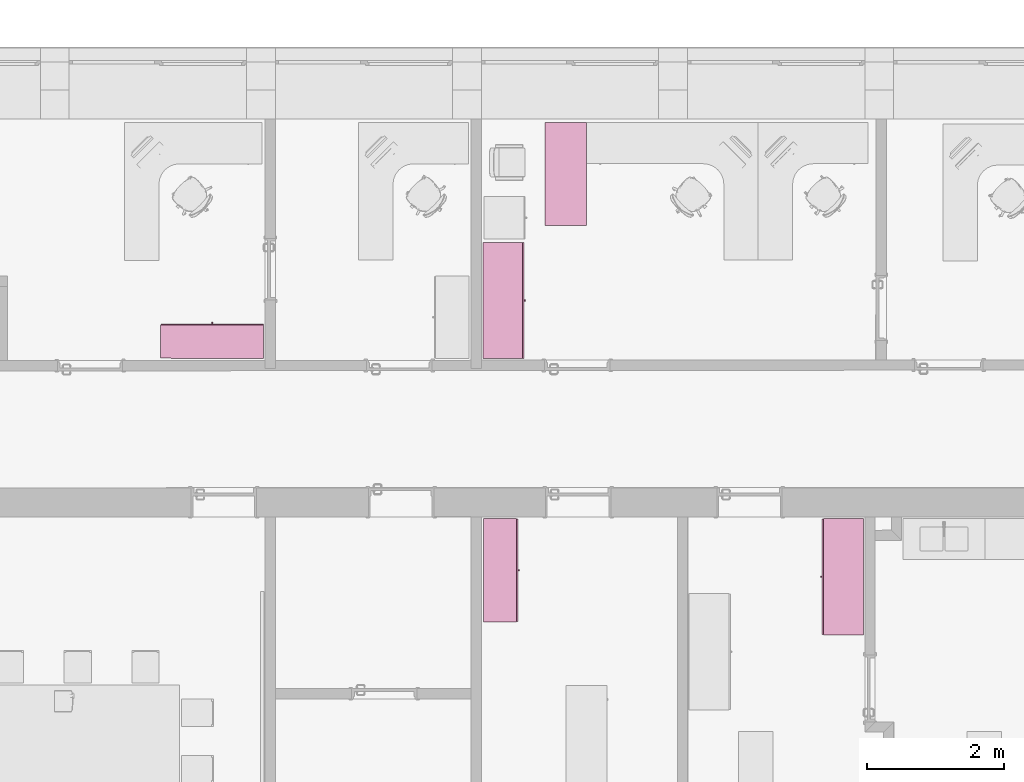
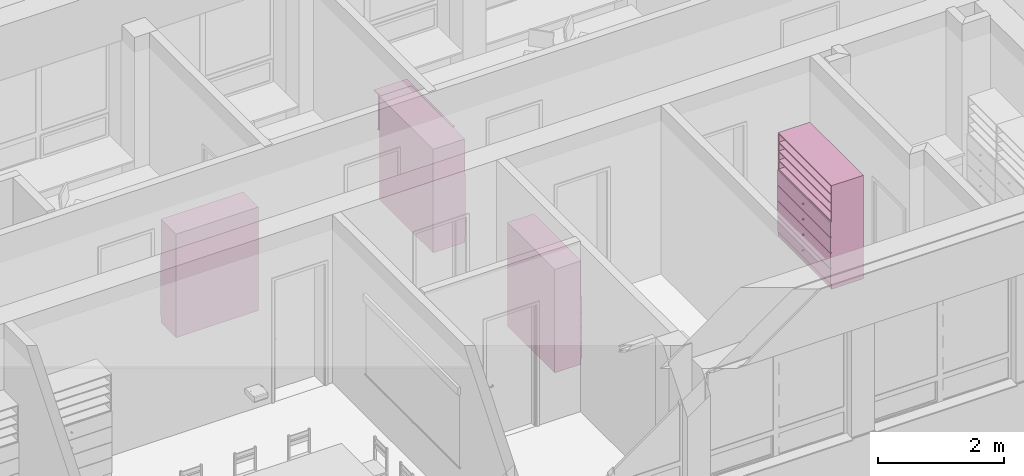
# One storey, part 134 of 194: 5 furnishings.
"""IFC2X3 building model written with IfcOpenShell, lengths in millimetres."""

from ifc_helpers import new_model, entity, si_unit, converted_unit, derived_unit, money_unit, direction, frame, origin_with_axes, place, context, subcontext, project, spatial, faceted_brep, source, transform, mapped, type_object, element, save


model = new_model("IFC2X3")

# Units and contexts
model_context = context("Model", 3, precision=1e-05, world=origin_with_axes(), true_north=direction((0.0, 1.0)))
body_context = subcontext(model_context, "Body", "Model", "MODEL_VIEW")
ifc_project = project(units=[si_unit("LENGTHUNIT", "METRE", prefix="MILLI"), si_unit("AREAUNIT", "SQUARE_METRE"), si_unit("VOLUMEUNIT", "CUBIC_METRE"), converted_unit("PLANEANGLEUNIT", "DEGREE", entity("IfcPlaneAngleMeasure", 0.0174532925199), si_unit("PLANEANGLEUNIT", "RADIAN"), dimensions=[0, 0, 0, 0, 0, 0, 0]), si_unit("SOLIDANGLEUNIT", "STERADIAN"), money_unit("EUR"), converted_unit("TIMEUNIT", "Year", entity("IfcTimeMeasure", 31556926.0), si_unit("TIMEUNIT", "SECOND"), dimensions=[0, 0, 1, 0, 0, 0, 0]), si_unit("MASSUNIT", "GRAM", prefix="KILO"), si_unit("THERMODYNAMICTEMPERATUREUNIT", "DEGREE_CELSIUS"), si_unit("LUMINOUSINTENSITYUNIT", "LUMEN"), si_unit("ENERGYUNIT", "JOULE", prefix="MEGA"), derived_unit("THERMALCONDUCTANCEUNIT", [(si_unit("POWERUNIT", "WATT"), 1), (si_unit("LENGTHUNIT", "METRE"), -1), (si_unit("THERMODYNAMICTEMPERATUREUNIT", "KELVIN"), -1)]), derived_unit("SPECIFICHEATCAPACITYUNIT", [(si_unit("ENERGYUNIT", "JOULE"), 1), (si_unit("MASSUNIT", "GRAM", prefix="KILO"), -1), (si_unit("THERMODYNAMICTEMPERATUREUNIT", "KELVIN"), -1)]), derived_unit("MASSDENSITYUNIT", [(si_unit("MASSUNIT", "GRAM", prefix="KILO"), 1), (si_unit("VOLUMEUNIT", "CUBIC_METRE"), -1)])], contexts=[model_context])

# Site, building, storey
site_placement = place(None, origin_with_axes())
site = spatial("IfcSite", under=ifc_project, at=site_placement, Name="Site", CompositionType="ELEMENT")
building_placement = place(site_placement, origin_with_axes())
building = spatial("IfcBuilding", under=site, at=building_placement, Name="Building", CompositionType="ELEMENT")
storey_placement = place(building_placement, frame((0.0, 0.0, 3000.0), z_axis=(0.0, 0.0, 1.0), x_axis=(1.0, 0.0, 0.0)))
storey = spatial("IfcBuildingStorey", under=building, at=storey_placement, Name="2 KORRUS", CompositionType="ELEMENT", Elevation=3000.0)

# Furnishings
furnishing_element_type_1 = type_object("IfcFurnishingElementType", Name="Model Element 59")
shared_shape_1 = source(origin_with_axes(), body_context, "Body", "Brep", [
    faceted_brep([(1500.0, 19.0, 0.0), (0.0, 19.0, 0.0), (0.0, 501.019199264, 0.0), (1500.0, 501.019199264, 0.0), (1500.0, 19.0, 100.0), (0.0, 19.0, 100.0), (0.0, 501.019199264, 100.0), (1500.0, 501.019199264, 100.0)], [[[0, 1, 2, 3]], [[1, 0, 4, 5]], [[2, 1, 5, 6]], [[3, 2, 6, 7]], [[0, 3, 7, 4]], [[5, 4, 7, 6]]]),
    faceted_brep([(19.0, 501.019199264, 119.0), (19.0, 482.019199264, 119.0), (19.0, 482.019199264, 1981.0), (19.0, 501.019199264, 1981.0), (1481.0, 501.019199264, 119.0), (1481.0, 482.019199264, 119.0), (1481.0, 482.019199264, 1981.0), (1481.0, 501.019199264, 1981.0)], [[[0, 1, 2, 3]], [[0, 4, 5, 1]], [[1, 5, 6, 2]], [[3, 2, 6, 7]], [[4, 0, 3, 7]], [[5, 4, 7, 6]]]),
    faceted_brep([(1500.0, 19.0, 100.0), (1481.0, 19.0, 100.0), (1481.0, 501.019199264, 100.0), (1500.0, 501.019199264, 100.0), (1500.0, 19.0, 2000.0), (1481.0, 19.0, 2000.0), (1481.0, 501.019199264, 2000.0), (1500.0, 501.019199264, 2000.0)], [[[0, 1, 2, 3]], [[1, 0, 4, 5]], [[2, 1, 5, 6]], [[3, 2, 6, 7]], [[0, 3, 7, 4]], [[5, 4, 7, 6]]]),
    faceted_brep([(19.0, 19.0, 100.0), (0.0, 19.0, 100.0), (0.0, 501.019199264, 100.0), (19.0, 501.019199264, 100.0), (19.0, 19.0, 2000.0), (0.0, 19.0, 2000.0), (0.0, 501.019199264, 2000.0), (19.0, 501.019199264, 2000.0)], [[[0, 1, 2, 3]], [[1, 0, 4, 5]], [[2, 1, 5, 6]], [[3, 2, 6, 7]], [[0, 3, 7, 4]], [[5, 4, 7, 6]]]),
    faceted_brep([(1481.0, 19.0, 100.0), (19.0, 19.0, 100.0), (19.0, 501.019199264, 100.0), (1481.0, 501.019199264, 100.0), (1481.0, 19.0, 119.0), (19.0, 19.0, 119.0), (19.0, 501.019199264, 119.0), (1481.0, 501.019199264, 119.0)], [[[0, 1, 2, 3]], [[1, 0, 4, 5]], [[2, 1, 5, 6]], [[3, 2, 6, 7]], [[0, 3, 7, 4]], [[5, 4, 7, 6]]]),
    faceted_brep([(1481.0, 19.0, 1981.0), (19.0, 19.0, 1981.0), (19.0, 501.019199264, 1981.0), (1481.0, 501.019199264, 1981.0), (1481.0, 19.0, 2000.0), (19.0, 19.0, 2000.0), (19.0, 501.019199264, 2000.0), (1481.0, 501.019199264, 2000.0)], [[[0, 1, 2, 3]], [[1, 0, 4, 5]], [[2, 1, 5, 6]], [[3, 2, 6, 7]], [[0, 3, 7, 4]], [[5, 4, 7, 6]]]),
    faceted_brep([(5.0, 19.0, 105.0), (1495.0, 19.0, 105.0), (1495.0, 0.0, 105.0), (5.0, 0.0, 105.0), (5.0, 19.0, 395.0), (1495.0, 19.0, 395.0), (1495.0, 0.0, 395.0), (5.0, 0.0, 395.0)], [[[0, 1, 2, 3]], [[0, 4, 5, 1]], [[1, 5, 6, 2]], [[3, 2, 6, 7]], [[4, 0, 3, 7]], [[5, 4, 7, 6]]]),
    faceted_brep([(760.392304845, 0.0, 244.0), (756.0, 0.0, 239.607695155), (750.0, 0.0, 238.0), (744.0, 0.0, 239.607695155), (739.607695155, 0.0, 244.0), (738.0, 0.0, 250.0), (739.607695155, 0.0, 256.0), (744.0, 0.0, 260.392304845), (750.0, 0.0, 262.0), (756.0, 0.0, 260.392304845), (760.392304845, 0.0, 256.0), (762.0, 0.0, 250.0), (760.392304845, -25.0, 244.0), (756.0, -25.0, 239.607695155), (750.0, -25.0, 238.0), (744.0, -25.0, 239.607695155), (739.607695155, -25.0, 244.0), (738.0, -25.0, 250.0), (739.607695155, -25.0, 256.0), (744.0, -25.0, 260.392304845), (750.0, -25.0, 262.0), (756.0, -25.0, 260.392304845), (760.392304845, -25.0, 256.0), (762.0, -25.0, 250.0)], [[[0, 1, 2, 3, 4, 5, 6, 7, 8, 9, 10, 11]], [[1, 0, 12, 13]], [[2, 1, 13, 14]], [[3, 2, 14, 15]], [[4, 3, 15, 16]], [[5, 4, 16, 17]], [[6, 5, 17, 18]], [[7, 6, 18, 19]], [[8, 7, 19, 20]], [[9, 8, 20, 21]], [[10, 9, 21, 22]], [[11, 10, 22, 23]], [[0, 11, 23, 12]], [[12, 23, 22, 21, 20, 19, 18, 17, 16, 15, 14, 13]]]),
    faceted_brep([(5.0, 19.0, 405.0), (1495.0, 19.0, 405.0), (1495.0, 0.0, 405.0), (5.0, 0.0, 405.0), (5.0, 19.0, 695.0), (1495.0, 19.0, 695.0), (1495.0, 0.0, 695.0), (5.0, 0.0, 695.0)], [[[0, 1, 2, 3]], [[0, 4, 5, 1]], [[1, 5, 6, 2]], [[3, 2, 6, 7]], [[4, 0, 3, 7]], [[5, 4, 7, 6]]]),
    faceted_brep([(760.392304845, 0.0, 544.0), (756.0, 0.0, 539.607695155), (750.0, 0.0, 538.0), (744.0, 0.0, 539.607695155), (739.607695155, 0.0, 544.0), (738.0, 0.0, 550.0), (739.607695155, 0.0, 556.0), (744.0, 0.0, 560.392304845), (750.0, 0.0, 562.0), (756.0, 0.0, 560.392304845), (760.392304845, 0.0, 556.0), (762.0, 0.0, 550.0), (760.392304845, -25.0, 544.0), (756.0, -25.0, 539.607695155), (750.0, -25.0, 538.0), (744.0, -25.0, 539.607695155), (739.607695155, -25.0, 544.0), (738.0, -25.0, 550.0), (739.607695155, -25.0, 556.0), (744.0, -25.0, 560.392304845), (750.0, -25.0, 562.0), (756.0, -25.0, 560.392304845), (760.392304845, -25.0, 556.0), (762.0, -25.0, 550.0)], [[[0, 1, 2, 3, 4, 5, 6, 7, 8, 9, 10, 11]], [[1, 0, 12, 13]], [[2, 1, 13, 14]], [[3, 2, 14, 15]], [[4, 3, 15, 16]], [[5, 4, 16, 17]], [[6, 5, 17, 18]], [[7, 6, 18, 19]], [[8, 7, 19, 20]], [[9, 8, 20, 21]], [[10, 9, 21, 22]], [[11, 10, 22, 23]], [[0, 11, 23, 12]], [[12, 23, 22, 21, 20, 19, 18, 17, 16, 15, 14, 13]]]),
    faceted_brep([(5.0, 19.0, 705.0), (1495.0, 19.0, 705.0), (1495.0, 0.0, 705.0), (5.0, 0.0, 705.0), (5.0, 19.0, 995.0), (1495.0, 19.0, 995.0), (1495.0, 0.0, 995.0), (5.0, 0.0, 995.0)], [[[0, 1, 2, 3]], [[0, 4, 5, 1]], [[1, 5, 6, 2]], [[3, 2, 6, 7]], [[4, 0, 3, 7]], [[5, 4, 7, 6]]]),
    faceted_brep([(760.392304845, 0.0, 844.0), (756.0, 0.0, 839.607695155), (750.0, 0.0, 838.0), (744.0, 0.0, 839.607695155), (739.607695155, 0.0, 844.0), (738.0, 0.0, 850.0), (739.607695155, 0.0, 856.0), (744.0, 0.0, 860.392304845), (750.0, 0.0, 862.0), (756.0, 0.0, 860.392304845), (760.392304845, 0.0, 856.0), (762.0, 0.0, 850.0), (760.392304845, -25.0, 844.0), (756.0, -25.0, 839.607695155), (750.0, -25.0, 838.0), (744.0, -25.0, 839.607695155), (739.607695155, -25.0, 844.0), (738.0, -25.0, 850.0), (739.607695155, -25.0, 856.0), (744.0, -25.0, 860.392304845), (750.0, -25.0, 862.0), (756.0, -25.0, 860.392304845), (760.392304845, -25.0, 856.0), (762.0, -25.0, 850.0)], [[[0, 1, 2, 3, 4, 5, 6, 7, 8, 9, 10, 11]], [[1, 0, 12, 13]], [[2, 1, 13, 14]], [[3, 2, 14, 15]], [[4, 3, 15, 16]], [[5, 4, 16, 17]], [[6, 5, 17, 18]], [[7, 6, 18, 19]], [[8, 7, 19, 20]], [[9, 8, 20, 21]], [[10, 9, 21, 22]], [[11, 10, 22, 23]], [[0, 11, 23, 12]], [[12, 23, 22, 21, 20, 19, 18, 17, 16, 15, 14, 13]]]),
    faceted_brep([(5.0, 19.0, 1005.0), (1495.0, 19.0, 1005.0), (1495.0, 0.0, 1005.0), (5.0, 0.0, 1005.0), (5.0, 19.0, 1295.0), (1495.0, 19.0, 1295.0), (1495.0, 0.0, 1295.0), (5.0, 0.0, 1295.0)], [[[0, 1, 2, 3]], [[0, 4, 5, 1]], [[1, 5, 6, 2]], [[3, 2, 6, 7]], [[4, 0, 3, 7]], [[5, 4, 7, 6]]]),
    faceted_brep([(760.392304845, 0.0, 1144.0), (756.0, 0.0, 1139.60769515), (750.0, 0.0, 1138.0), (744.0, 0.0, 1139.60769515), (739.607695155, 0.0, 1144.0), (738.0, 0.0, 1150.0), (739.607695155, 0.0, 1156.0), (744.0, 0.0, 1160.39230485), (750.0, 0.0, 1162.0), (756.0, 0.0, 1160.39230485), (760.392304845, 0.0, 1156.0), (762.0, 0.0, 1150.0), (760.392304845, -25.0, 1144.0), (756.0, -25.0, 1139.60769515), (750.0, -25.0, 1138.0), (744.0, -25.0, 1139.60769515), (739.607695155, -25.0, 1144.0), (738.0, -25.0, 1150.0), (739.607695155, -25.0, 1156.0), (744.0, -25.0, 1160.39230485), (750.0, -25.0, 1162.0), (756.0, -25.0, 1160.39230485), (760.392304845, -25.0, 1156.0), (762.0, -25.0, 1150.0)], [[[0, 1, 2, 3, 4, 5, 6, 7, 8, 9, 10, 11]], [[1, 0, 12, 13]], [[2, 1, 13, 14]], [[3, 2, 14, 15]], [[4, 3, 15, 16]], [[5, 4, 16, 17]], [[6, 5, 17, 18]], [[7, 6, 18, 19]], [[8, 7, 19, 20]], [[9, 8, 20, 21]], [[10, 9, 21, 22]], [[11, 10, 22, 23]], [[0, 11, 23, 12]], [[12, 23, 22, 21, 20, 19, 18, 17, 16, 15, 14, 13]]]),
    faceted_brep([(19.0, 19.0, 390.5), (1481.0, 19.0, 390.5), (1481.0, 19.0, 409.5), (19.0, 19.0, 409.5), (19.0, 482.019199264, 390.5), (1481.0, 482.019199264, 390.5), (1481.0, 482.019199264, 409.5), (19.0, 482.019199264, 409.5)], [[[0, 1, 2, 3]], [[0, 4, 5, 1]], [[1, 5, 6, 2]], [[3, 2, 6, 7]], [[4, 0, 3, 7]], [[5, 4, 7, 6]]]),
    faceted_brep([(19.0, 19.0, 690.5), (1481.0, 19.0, 690.5), (1481.0, 19.0, 709.5), (19.0, 19.0, 709.5), (19.0, 482.019199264, 690.5), (1481.0, 482.019199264, 690.5), (1481.0, 482.019199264, 709.5), (19.0, 482.019199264, 709.5)], [[[0, 1, 2, 3]], [[0, 4, 5, 1]], [[1, 5, 6, 2]], [[3, 2, 6, 7]], [[4, 0, 3, 7]], [[5, 4, 7, 6]]]),
    faceted_brep([(19.0, 19.0, 990.5), (1481.0, 19.0, 990.5), (1481.0, 19.0, 1009.5), (19.0, 19.0, 1009.5), (19.0, 482.019199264, 990.5), (1481.0, 482.019199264, 990.5), (1481.0, 482.019199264, 1009.5), (19.0, 482.019199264, 1009.5)], [[[0, 1, 2, 3]], [[0, 4, 5, 1]], [[1, 5, 6, 2]], [[3, 2, 6, 7]], [[4, 0, 3, 7]], [[5, 4, 7, 6]]]),
    faceted_brep([(19.0, 19.0, 1290.5), (1481.0, 19.0, 1290.5), (1481.0, 19.0, 1309.5), (19.0, 19.0, 1309.5), (19.0, 482.019199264, 1290.5), (1481.0, 482.019199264, 1290.5), (1481.0, 482.019199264, 1309.5), (19.0, 482.019199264, 1309.5)], [[[0, 1, 2, 3]], [[0, 4, 5, 1]], [[1, 5, 6, 2]], [[3, 2, 6, 7]], [[4, 0, 3, 7]], [[5, 4, 7, 6]]]),
    faceted_brep([(1481.0, 19.0, 1463.125), (19.0, 19.0, 1463.125), (19.0, 482.019199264, 1463.125), (1481.0, 482.019199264, 1463.125), (1481.0, 19.0, 1482.125), (19.0, 19.0, 1482.125), (19.0, 482.019199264, 1482.125), (1481.0, 482.019199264, 1482.125)], [[[0, 1, 2, 3]], [[1, 0, 4, 5]], [[2, 1, 5, 6]], [[3, 2, 6, 7]], [[0, 3, 7, 4]], [[5, 4, 7, 6]]]),
    faceted_brep([(1481.0, 19.0, 1635.75), (19.0, 19.0, 1635.75), (19.0, 482.019199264, 1635.75), (1481.0, 482.019199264, 1635.75), (1481.0, 19.0, 1654.75), (19.0, 19.0, 1654.75), (19.0, 482.019199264, 1654.75), (1481.0, 482.019199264, 1654.75)], [[[0, 1, 2, 3]], [[1, 0, 4, 5]], [[2, 1, 5, 6]], [[3, 2, 6, 7]], [[0, 3, 7, 4]], [[5, 4, 7, 6]]]),
    faceted_brep([(1481.0, 19.0, 1808.375), (19.0, 19.0, 1808.375), (19.0, 482.019199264, 1808.375), (1481.0, 482.019199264, 1808.375), (1481.0, 19.0, 1827.375), (19.0, 19.0, 1827.375), (19.0, 482.019199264, 1827.375), (1481.0, 482.019199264, 1827.375)], [[[0, 1, 2, 3]], [[1, 0, 4, 5]], [[2, 1, 5, 6]], [[3, 2, 6, 7]], [[0, 3, 7, 4]], [[5, 4, 7, 6]]]),
])
for number, where, z_axis, x_axis, name in (
    (1, (48984.4250612, 43489.7975866, 0.0), (0.0, 0.0, 1.0), (-0.999999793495, 0.000642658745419, 0.0), "FU - 001"),
    (2, (52685.3860609, 39153.9977461, 0.0), (0.0, 0.0, 1.0), (0.000642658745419, 0.999999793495, 0.0), "FU - 001"),
):
    element("IfcFurnishingElement", number, at=place(storey_placement, frame(where, z_axis=z_axis, x_axis=x_axis)), inside=storey, type_object=furnishing_element_type_1, Name=name, context=body_context, shape_type="MappedRepresentation", body=[
        mapped(shared_shape_1, transform((0.0, 0.0, 0.0))),
    ])
furnishing_element_type_2 = type_object("IfcFurnishingElementType", Name="Model Element 52")
shared_shape_2 = source(origin_with_axes(), body_context, "Body", "Brep", [
    faceted_brep([(1693.4828307, 19.0, 0.0), (0.0, 19.0, 0.0), (0.0, 599.467164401, 0.0), (1693.4828307, 599.467164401, 0.0), (1693.4828307, 19.0, 100.0), (0.0, 19.0, 100.0), (0.0, 599.467164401, 100.0), (1693.4828307, 599.467164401, 100.0)], [[[0, 1, 2, 3]], [[1, 0, 4, 5]], [[2, 1, 5, 6]], [[3, 2, 6, 7]], [[0, 3, 7, 4]], [[5, 4, 7, 6]]]),
    faceted_brep([(19.0, 599.467164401, 119.0), (19.0, 580.467164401, 119.0), (19.0, 580.467164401, 1981.0), (19.0, 599.467164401, 1981.0), (1674.4828307, 599.467164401, 119.0), (1674.4828307, 580.467164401, 119.0), (1674.4828307, 580.467164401, 1981.0), (1674.4828307, 599.467164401, 1981.0)], [[[0, 1, 2, 3]], [[0, 4, 5, 1]], [[1, 5, 6, 2]], [[3, 2, 6, 7]], [[4, 0, 3, 7]], [[5, 4, 7, 6]]]),
    faceted_brep([(1693.4828307, 19.0, 100.0), (1674.4828307, 19.0, 100.0), (1674.4828307, 599.467164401, 100.0), (1693.4828307, 599.467164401, 100.0), (1693.4828307, 19.0, 2000.0), (1674.4828307, 19.0, 2000.0), (1674.4828307, 599.467164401, 2000.0), (1693.4828307, 599.467164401, 2000.0)], [[[0, 1, 2, 3]], [[1, 0, 4, 5]], [[2, 1, 5, 6]], [[3, 2, 6, 7]], [[0, 3, 7, 4]], [[5, 4, 7, 6]]]),
    faceted_brep([(19.0, 19.0, 100.0), (0.0, 19.0, 100.0), (0.0, 599.467164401, 100.0), (19.0, 599.467164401, 100.0), (19.0, 19.0, 2000.0), (0.0, 19.0, 2000.0), (0.0, 599.467164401, 2000.0), (19.0, 599.467164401, 2000.0)], [[[0, 1, 2, 3]], [[1, 0, 4, 5]], [[2, 1, 5, 6]], [[3, 2, 6, 7]], [[0, 3, 7, 4]], [[5, 4, 7, 6]]]),
    faceted_brep([(1674.4828307, 19.0, 100.0), (19.0, 19.0, 100.0), (19.0, 599.467164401, 100.0), (1674.4828307, 599.467164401, 100.0), (1674.4828307, 19.0, 119.0), (19.0, 19.0, 119.0), (19.0, 599.467164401, 119.0), (1674.4828307, 599.467164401, 119.0)], [[[0, 1, 2, 3]], [[1, 0, 4, 5]], [[2, 1, 5, 6]], [[3, 2, 6, 7]], [[0, 3, 7, 4]], [[5, 4, 7, 6]]]),
    faceted_brep([(1674.4828307, 19.0, 1981.0), (19.0, 19.0, 1981.0), (19.0, 599.467164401, 1981.0), (1674.4828307, 599.467164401, 1981.0), (1674.4828307, 19.0, 2000.0), (19.0, 19.0, 2000.0), (19.0, 599.467164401, 2000.0), (1674.4828307, 599.467164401, 2000.0)], [[[0, 1, 2, 3]], [[1, 0, 4, 5]], [[2, 1, 5, 6]], [[3, 2, 6, 7]], [[0, 3, 7, 4]], [[5, 4, 7, 6]]]),
    faceted_brep([(5.0, 19.0, 105.0), (1688.4828307, 19.0, 105.0), (1688.4828307, 0.0, 105.0), (5.0, 0.0, 105.0), (5.0, 19.0, 395.0), (1688.4828307, 19.0, 395.0), (1688.4828307, 0.0, 395.0), (5.0, 0.0, 395.0)], [[[0, 1, 2, 3]], [[0, 4, 5, 1]], [[1, 5, 6, 2]], [[3, 2, 6, 7]], [[4, 0, 3, 7]], [[5, 4, 7, 6]]]),
    faceted_brep([(857.133720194, 0.0, 244.0), (852.741415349, 0.0, 239.607695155), (846.741415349, 0.0, 238.0), (840.741415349, 0.0, 239.607695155), (836.349110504, 0.0, 244.0), (834.741415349, 0.0, 250.0), (836.349110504, 0.0, 256.0), (840.741415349, 0.0, 260.392304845), (846.741415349, 0.0, 262.0), (852.741415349, 0.0, 260.392304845), (857.133720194, 0.0, 256.0), (858.741415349, 0.0, 250.0), (857.133720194, -25.0, 244.0), (852.741415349, -25.0, 239.607695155), (846.741415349, -25.0, 238.0), (840.741415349, -25.0, 239.607695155), (836.349110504, -25.0, 244.0), (834.741415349, -25.0, 250.0), (836.349110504, -25.0, 256.0), (840.741415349, -25.0, 260.392304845), (846.741415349, -25.0, 262.0), (852.741415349, -25.0, 260.392304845), (857.133720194, -25.0, 256.0), (858.741415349, -25.0, 250.0)], [[[0, 1, 2, 3, 4, 5, 6, 7, 8, 9, 10, 11]], [[1, 0, 12, 13]], [[2, 1, 13, 14]], [[3, 2, 14, 15]], [[4, 3, 15, 16]], [[5, 4, 16, 17]], [[6, 5, 17, 18]], [[7, 6, 18, 19]], [[8, 7, 19, 20]], [[9, 8, 20, 21]], [[10, 9, 21, 22]], [[11, 10, 22, 23]], [[0, 11, 23, 12]], [[12, 23, 22, 21, 20, 19, 18, 17, 16, 15, 14, 13]]]),
    faceted_brep([(5.0, 19.0, 405.0), (1688.4828307, 19.0, 405.0), (1688.4828307, 0.0, 405.0), (5.0, 0.0, 405.0), (5.0, 19.0, 695.0), (1688.4828307, 19.0, 695.0), (1688.4828307, 0.0, 695.0), (5.0, 0.0, 695.0)], [[[0, 1, 2, 3]], [[0, 4, 5, 1]], [[1, 5, 6, 2]], [[3, 2, 6, 7]], [[4, 0, 3, 7]], [[5, 4, 7, 6]]]),
    faceted_brep([(857.133720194, 0.0, 544.0), (852.741415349, 0.0, 539.607695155), (846.741415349, 0.0, 538.0), (840.741415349, 0.0, 539.607695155), (836.349110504, 0.0, 544.0), (834.741415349, 0.0, 550.0), (836.349110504, 0.0, 556.0), (840.741415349, 0.0, 560.392304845), (846.741415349, 0.0, 562.0), (852.741415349, 0.0, 560.392304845), (857.133720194, 0.0, 556.0), (858.741415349, 0.0, 550.0), (857.133720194, -25.0, 544.0), (852.741415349, -25.0, 539.607695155), (846.741415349, -25.0, 538.0), (840.741415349, -25.0, 539.607695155), (836.349110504, -25.0, 544.0), (834.741415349, -25.0, 550.0), (836.349110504, -25.0, 556.0), (840.741415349, -25.0, 560.392304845), (846.741415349, -25.0, 562.0), (852.741415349, -25.0, 560.392304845), (857.133720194, -25.0, 556.0), (858.741415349, -25.0, 550.0)], [[[0, 1, 2, 3, 4, 5, 6, 7, 8, 9, 10, 11]], [[1, 0, 12, 13]], [[2, 1, 13, 14]], [[3, 2, 14, 15]], [[4, 3, 15, 16]], [[5, 4, 16, 17]], [[6, 5, 17, 18]], [[7, 6, 18, 19]], [[8, 7, 19, 20]], [[9, 8, 20, 21]], [[10, 9, 21, 22]], [[11, 10, 22, 23]], [[0, 11, 23, 12]], [[12, 23, 22, 21, 20, 19, 18, 17, 16, 15, 14, 13]]]),
    faceted_brep([(5.0, 19.0, 705.0), (1688.4828307, 19.0, 705.0), (1688.4828307, 0.0, 705.0), (5.0, 0.0, 705.0), (5.0, 19.0, 995.0), (1688.4828307, 19.0, 995.0), (1688.4828307, 0.0, 995.0), (5.0, 0.0, 995.0)], [[[0, 1, 2, 3]], [[0, 4, 5, 1]], [[1, 5, 6, 2]], [[3, 2, 6, 7]], [[4, 0, 3, 7]], [[5, 4, 7, 6]]]),
    faceted_brep([(857.133720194, 0.0, 844.0), (852.741415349, 0.0, 839.607695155), (846.741415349, 0.0, 838.0), (840.741415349, 0.0, 839.607695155), (836.349110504, 0.0, 844.0), (834.741415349, 0.0, 850.0), (836.349110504, 0.0, 856.0), (840.741415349, 0.0, 860.392304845), (846.741415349, 0.0, 862.0), (852.741415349, 0.0, 860.392304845), (857.133720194, 0.0, 856.0), (858.741415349, 0.0, 850.0), (857.133720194, -25.0, 844.0), (852.741415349, -25.0, 839.607695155), (846.741415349, -25.0, 838.0), (840.741415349, -25.0, 839.607695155), (836.349110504, -25.0, 844.0), (834.741415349, -25.0, 850.0), (836.349110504, -25.0, 856.0), (840.741415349, -25.0, 860.392304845), (846.741415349, -25.0, 862.0), (852.741415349, -25.0, 860.392304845), (857.133720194, -25.0, 856.0), (858.741415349, -25.0, 850.0)], [[[0, 1, 2, 3, 4, 5, 6, 7, 8, 9, 10, 11]], [[1, 0, 12, 13]], [[2, 1, 13, 14]], [[3, 2, 14, 15]], [[4, 3, 15, 16]], [[5, 4, 16, 17]], [[6, 5, 17, 18]], [[7, 6, 18, 19]], [[8, 7, 19, 20]], [[9, 8, 20, 21]], [[10, 9, 21, 22]], [[11, 10, 22, 23]], [[0, 11, 23, 12]], [[12, 23, 22, 21, 20, 19, 18, 17, 16, 15, 14, 13]]]),
    faceted_brep([(5.0, 19.0, 1005.0), (1688.4828307, 19.0, 1005.0), (1688.4828307, 0.0, 1005.0), (5.0, 0.0, 1005.0), (5.0, 19.0, 1295.0), (1688.4828307, 19.0, 1295.0), (1688.4828307, 0.0, 1295.0), (5.0, 0.0, 1295.0)], [[[0, 1, 2, 3]], [[0, 4, 5, 1]], [[1, 5, 6, 2]], [[3, 2, 6, 7]], [[4, 0, 3, 7]], [[5, 4, 7, 6]]]),
    faceted_brep([(857.133720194, 0.0, 1144.0), (852.741415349, 0.0, 1139.60769515), (846.741415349, 0.0, 1138.0), (840.741415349, 0.0, 1139.60769515), (836.349110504, 0.0, 1144.0), (834.741415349, 0.0, 1150.0), (836.349110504, 0.0, 1156.0), (840.741415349, 0.0, 1160.39230485), (846.741415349, 0.0, 1162.0), (852.741415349, 0.0, 1160.39230485), (857.133720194, 0.0, 1156.0), (858.741415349, 0.0, 1150.0), (857.133720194, -25.0, 1144.0), (852.741415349, -25.0, 1139.60769515), (846.741415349, -25.0, 1138.0), (840.741415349, -25.0, 1139.60769515), (836.349110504, -25.0, 1144.0), (834.741415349, -25.0, 1150.0), (836.349110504, -25.0, 1156.0), (840.741415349, -25.0, 1160.39230485), (846.741415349, -25.0, 1162.0), (852.741415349, -25.0, 1160.39230485), (857.133720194, -25.0, 1156.0), (858.741415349, -25.0, 1150.0)], [[[0, 1, 2, 3, 4, 5, 6, 7, 8, 9, 10, 11]], [[1, 0, 12, 13]], [[2, 1, 13, 14]], [[3, 2, 14, 15]], [[4, 3, 15, 16]], [[5, 4, 16, 17]], [[6, 5, 17, 18]], [[7, 6, 18, 19]], [[8, 7, 19, 20]], [[9, 8, 20, 21]], [[10, 9, 21, 22]], [[11, 10, 22, 23]], [[0, 11, 23, 12]], [[12, 23, 22, 21, 20, 19, 18, 17, 16, 15, 14, 13]]]),
    faceted_brep([(19.0, 19.0, 390.5), (1674.4828307, 19.0, 390.5), (1674.4828307, 19.0, 409.5), (19.0, 19.0, 409.5), (19.0, 580.467164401, 390.5), (1674.4828307, 580.467164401, 390.5), (1674.4828307, 580.467164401, 409.5), (19.0, 580.467164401, 409.5)], [[[0, 1, 2, 3]], [[0, 4, 5, 1]], [[1, 5, 6, 2]], [[3, 2, 6, 7]], [[4, 0, 3, 7]], [[5, 4, 7, 6]]]),
    faceted_brep([(19.0, 19.0, 690.5), (1674.4828307, 19.0, 690.5), (1674.4828307, 19.0, 709.5), (19.0, 19.0, 709.5), (19.0, 580.467164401, 690.5), (1674.4828307, 580.467164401, 690.5), (1674.4828307, 580.467164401, 709.5), (19.0, 580.467164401, 709.5)], [[[0, 1, 2, 3]], [[0, 4, 5, 1]], [[1, 5, 6, 2]], [[3, 2, 6, 7]], [[4, 0, 3, 7]], [[5, 4, 7, 6]]]),
    faceted_brep([(19.0, 19.0, 990.5), (1674.4828307, 19.0, 990.5), (1674.4828307, 19.0, 1009.5), (19.0, 19.0, 1009.5), (19.0, 580.467164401, 990.5), (1674.4828307, 580.467164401, 990.5), (1674.4828307, 580.467164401, 1009.5), (19.0, 580.467164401, 1009.5)], [[[0, 1, 2, 3]], [[0, 4, 5, 1]], [[1, 5, 6, 2]], [[3, 2, 6, 7]], [[4, 0, 3, 7]], [[5, 4, 7, 6]]]),
    faceted_brep([(19.0, 19.0, 1290.5), (1674.4828307, 19.0, 1290.5), (1674.4828307, 19.0, 1309.5), (19.0, 19.0, 1309.5), (19.0, 580.467164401, 1290.5), (1674.4828307, 580.467164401, 1290.5), (1674.4828307, 580.467164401, 1309.5), (19.0, 580.467164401, 1309.5)], [[[0, 1, 2, 3]], [[0, 4, 5, 1]], [[1, 5, 6, 2]], [[3, 2, 6, 7]], [[4, 0, 3, 7]], [[5, 4, 7, 6]]]),
    faceted_brep([(1674.4828307, 19.0, 1463.125), (19.0, 19.0, 1463.125), (19.0, 580.467164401, 1463.125), (1674.4828307, 580.467164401, 1463.125), (1674.4828307, 19.0, 1482.125), (19.0, 19.0, 1482.125), (19.0, 580.467164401, 1482.125), (1674.4828307, 580.467164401, 1482.125)], [[[0, 1, 2, 3]], [[1, 0, 4, 5]], [[2, 1, 5, 6]], [[3, 2, 6, 7]], [[0, 3, 7, 4]], [[5, 4, 7, 6]]]),
    faceted_brep([(1674.4828307, 19.0, 1635.75), (19.0, 19.0, 1635.75), (19.0, 580.467164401, 1635.75), (1674.4828307, 580.467164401, 1635.75), (1674.4828307, 19.0, 1654.75), (19.0, 19.0, 1654.75), (19.0, 580.467164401, 1654.75), (1674.4828307, 580.467164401, 1654.75)], [[[0, 1, 2, 3]], [[1, 0, 4, 5]], [[2, 1, 5, 6]], [[3, 2, 6, 7]], [[0, 3, 7, 4]], [[5, 4, 7, 6]]]),
    faceted_brep([(1674.4828307, 19.0, 1808.375), (19.0, 19.0, 1808.375), (19.0, 580.467164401, 1808.375), (1674.4828307, 580.467164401, 1808.375), (1674.4828307, 19.0, 1827.375), (19.0, 19.0, 1827.375), (19.0, 580.467164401, 1827.375), (1674.4828307, 580.467164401, 1827.375)], [[[0, 1, 2, 3]], [[1, 0, 4, 5]], [[2, 1, 5, 6]], [[3, 2, 6, 7]], [[0, 3, 7, 4]], [[5, 4, 7, 6]]]),
])
for number, where, z_axis, x_axis, name in (
    (3, (57114.797442, 40657.161766, 0.0), (0.0, 0.0, 1.0), (-0.00064265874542, -0.999999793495, 0.0), "FU - 001"),
    (4, (52773.1056695, 42982.9349347, 0.0), (0.0, 0.0, 1.0), (0.00064265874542, 0.999999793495, 0.0), "FU - 001"),
):
    element("IfcFurnishingElement", number, at=place(storey_placement, frame(where, z_axis=z_axis, x_axis=x_axis)), inside=storey, type_object=furnishing_element_type_2, Name=name, context=body_context, shape_type="MappedRepresentation", body=[
        mapped(shared_shape_2, transform((0.0, 0.0, 0.0))),
    ])
furnishing_element_type_3 = type_object("IfcFurnishingElementType", Name="Model Element 54")
shared_shape_3 = source(origin_with_axes(), body_context, "Body", "Brep", [
    faceted_brep([(0.0, 0.0, 725.0), (1500.0, 0.0, 725.0), (1500.0, 0.0, 750.0), (0.0, 0.0, 750.0), (0.0, 600.0, 725.0), (1500.0, 600.0, 725.0), (1500.0, 600.0, 750.0), (0.0, 600.0, 750.0)], [[[0, 1, 2, 3]], [[0, 4, 5, 1]], [[1, 5, 6, 2]], [[3, 2, 6, 7]], [[4, 0, 3, 7]], [[5, 4, 7, 6]]]),
    faceted_brep([(77.6776695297, 77.6776695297, 10.0), (85.0, 60.0, 10.0), (77.6776695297, 42.3223304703, 10.0), (60.0, 35.0, 10.0), (42.3223304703, 42.3223304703, 10.0), (35.0, 60.0, 10.0), (42.3223304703, 77.6776695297, 10.0), (60.0, 85.0, 10.0), (77.6776695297, 77.6776695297, 725.0), (85.0, 60.0, 725.0), (77.6776695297, 42.3223304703, 725.0), (60.0, 35.0, 725.0), (42.3223304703, 42.3223304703, 725.0), (35.0, 60.0, 725.0), (42.3223304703, 77.6776695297, 725.0), (60.0, 85.0, 725.0)], [[[0, 1, 2, 3, 4, 5, 6, 7]], [[1, 0, 8, 9]], [[2, 1, 9, 10]], [[3, 2, 10, 11]], [[4, 3, 11, 12]], [[5, 4, 12, 13]], [[6, 5, 13, 14]], [[7, 6, 14, 15]], [[0, 7, 15, 8]], [[8, 15, 14, 13, 12, 11, 10, 9]]]),
    faceted_brep([(81.2132034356, 81.2132034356, 0.0), (90.0, 60.0, 0.0), (81.2132034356, 38.7867965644, 0.0), (60.0, 30.0, 0.0), (38.7867965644, 38.7867965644, 0.0), (30.0, 60.0, 0.0), (38.7867965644, 81.2132034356, 0.0), (60.0, 90.0, 0.0), (81.2132034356, 81.2132034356, 10.0), (90.0, 60.0, 10.0), (81.2132034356, 38.7867965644, 10.0), (60.0, 30.0, 10.0), (38.7867965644, 38.7867965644, 10.0), (30.0, 60.0, 10.0), (38.7867965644, 81.2132034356, 10.0), (60.0, 90.0, 10.0)], [[[0, 1, 2, 3, 4, 5, 6, 7]], [[1, 0, 8, 9]], [[2, 1, 9, 10]], [[3, 2, 10, 11]], [[4, 3, 11, 12]], [[5, 4, 12, 13]], [[6, 5, 13, 14]], [[7, 6, 14, 15]], [[0, 7, 15, 8]], [[8, 15, 14, 13, 12, 11, 10, 9]]]),
    faceted_brep([(77.6776695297, 557.67766953, 10.0), (85.0, 540.0, 10.0), (77.6776695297, 522.32233047, 10.0), (60.0, 515.0, 10.0), (42.3223304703, 522.32233047, 10.0), (35.0, 540.0, 10.0), (42.3223304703, 557.67766953, 10.0), (60.0, 565.0, 10.0), (77.6776695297, 557.67766953, 725.0), (85.0, 540.0, 725.0), (77.6776695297, 522.32233047, 725.0), (60.0, 515.0, 725.0), (42.3223304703, 522.32233047, 725.0), (35.0, 540.0, 725.0), (42.3223304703, 557.67766953, 725.0), (60.0, 565.0, 725.0)], [[[0, 1, 2, 3, 4, 5, 6, 7]], [[1, 0, 8, 9]], [[2, 1, 9, 10]], [[3, 2, 10, 11]], [[4, 3, 11, 12]], [[5, 4, 12, 13]], [[6, 5, 13, 14]], [[7, 6, 14, 15]], [[0, 7, 15, 8]], [[8, 15, 14, 13, 12, 11, 10, 9]]]),
    faceted_brep([(81.2132034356, 561.213203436, 0.0), (90.0, 540.0, 0.0), (81.2132034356, 518.786796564, 0.0), (60.0, 510.0, 0.0), (38.7867965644, 518.786796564, 0.0), (30.0, 540.0, 0.0), (38.7867965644, 561.213203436, 0.0), (60.0, 570.0, 0.0), (81.2132034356, 561.213203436, 10.0), (90.0, 540.0, 10.0), (81.2132034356, 518.786796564, 10.0), (60.0, 510.0, 10.0), (38.7867965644, 518.786796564, 10.0), (30.0, 540.0, 10.0), (38.7867965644, 561.213203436, 10.0), (60.0, 570.0, 10.0)], [[[0, 1, 2, 3, 4, 5, 6, 7]], [[1, 0, 8, 9]], [[2, 1, 9, 10]], [[3, 2, 10, 11]], [[4, 3, 11, 12]], [[5, 4, 12, 13]], [[6, 5, 13, 14]], [[7, 6, 14, 15]], [[0, 7, 15, 8]], [[8, 15, 14, 13, 12, 11, 10, 9]]]),
    faceted_brep([(1457.67766953, 77.6776695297, 10.0), (1465.0, 60.0, 10.0), (1457.67766953, 42.3223304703, 10.0), (1440.0, 35.0, 10.0), (1422.32233047, 42.3223304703, 10.0), (1415.0, 60.0, 10.0), (1422.32233047, 77.6776695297, 10.0), (1440.0, 85.0, 10.0), (1457.67766953, 77.6776695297, 725.0), (1465.0, 60.0, 725.0), (1457.67766953, 42.3223304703, 725.0), (1440.0, 35.0, 725.0), (1422.32233047, 42.3223304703, 725.0), (1415.0, 60.0, 725.0), (1422.32233047, 77.6776695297, 725.0), (1440.0, 85.0, 725.0)], [[[0, 1, 2, 3, 4, 5, 6, 7]], [[1, 0, 8, 9]], [[2, 1, 9, 10]], [[3, 2, 10, 11]], [[4, 3, 11, 12]], [[5, 4, 12, 13]], [[6, 5, 13, 14]], [[7, 6, 14, 15]], [[0, 7, 15, 8]], [[8, 15, 14, 13, 12, 11, 10, 9]]]),
    faceted_brep([(1461.21320344, 81.2132034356, 0.0), (1470.0, 60.0, 0.0), (1461.21320344, 38.7867965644, 0.0), (1440.0, 30.0, 0.0), (1418.78679656, 38.7867965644, 0.0), (1410.0, 60.0, 0.0), (1418.78679656, 81.2132034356, 0.0), (1440.0, 90.0, 0.0), (1461.21320344, 81.2132034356, 10.0), (1470.0, 60.0, 10.0), (1461.21320344, 38.7867965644, 10.0), (1440.0, 30.0, 10.0), (1418.78679656, 38.7867965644, 10.0), (1410.0, 60.0, 10.0), (1418.78679656, 81.2132034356, 10.0), (1440.0, 90.0, 10.0)], [[[0, 1, 2, 3, 4, 5, 6, 7]], [[1, 0, 8, 9]], [[2, 1, 9, 10]], [[3, 2, 10, 11]], [[4, 3, 11, 12]], [[5, 4, 12, 13]], [[6, 5, 13, 14]], [[7, 6, 14, 15]], [[0, 7, 15, 8]], [[8, 15, 14, 13, 12, 11, 10, 9]]]),
    faceted_brep([(1457.67766953, 557.67766953, 10.0), (1465.0, 540.0, 10.0), (1457.67766953, 522.32233047, 10.0), (1440.0, 515.0, 10.0), (1422.32233047, 522.32233047, 10.0), (1415.0, 540.0, 10.0), (1422.32233047, 557.67766953, 10.0), (1440.0, 565.0, 10.0), (1457.67766953, 557.67766953, 725.0), (1465.0, 540.0, 725.0), (1457.67766953, 522.32233047, 725.0), (1440.0, 515.0, 725.0), (1422.32233047, 522.32233047, 725.0), (1415.0, 540.0, 725.0), (1422.32233047, 557.67766953, 725.0), (1440.0, 565.0, 725.0)], [[[0, 1, 2, 3, 4, 5, 6, 7]], [[1, 0, 8, 9]], [[2, 1, 9, 10]], [[3, 2, 10, 11]], [[4, 3, 11, 12]], [[5, 4, 12, 13]], [[6, 5, 13, 14]], [[7, 6, 14, 15]], [[0, 7, 15, 8]], [[8, 15, 14, 13, 12, 11, 10, 9]]]),
    faceted_brep([(1461.21320344, 561.213203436, 0.0), (1470.0, 540.0, 0.0), (1461.21320344, 518.786796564, 0.0), (1440.0, 510.0, 0.0), (1418.78679656, 518.786796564, 0.0), (1410.0, 540.0, 0.0), (1418.78679656, 561.213203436, 0.0), (1440.0, 570.0, 0.0), (1461.21320344, 561.213203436, 10.0), (1470.0, 540.0, 10.0), (1461.21320344, 518.786796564, 10.0), (1440.0, 510.0, 10.0), (1418.78679656, 518.786796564, 10.0), (1410.0, 540.0, 10.0), (1418.78679656, 561.213203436, 10.0), (1440.0, 570.0, 10.0)], [[[0, 1, 2, 3, 4, 5, 6, 7]], [[1, 0, 8, 9]], [[2, 1, 9, 10]], [[3, 2, 10, 11]], [[4, 3, 11, 12]], [[5, 4, 12, 13]], [[6, 5, 13, 14]], [[7, 6, 14, 15]], [[0, 7, 15, 8]], [[8, 15, 14, 13, 12, 11, 10, 9]]]),
])
furnishing_placement = place(storey_placement, frame((53083.1411686, 46421.3066118, 0.0), z_axis=(0.0, 0.0, 1.0), x_axis=(0.0, -1.0, 0.0)))
element("IfcFurnishingElement", 5, at=furnishing_placement, inside=storey, type_object=furnishing_element_type_3, Name="FU - 007", context=body_context, shape_type="MappedRepresentation", body=[
    mapped(shared_shape_3, transform((0.0, 0.0, 0.0))),
])

save(model, "model.ifc")
